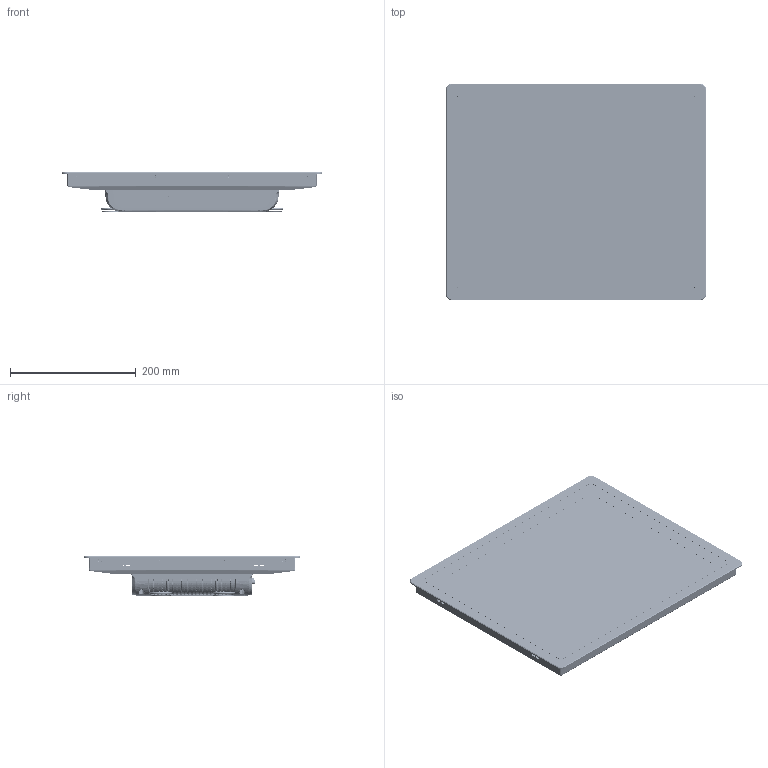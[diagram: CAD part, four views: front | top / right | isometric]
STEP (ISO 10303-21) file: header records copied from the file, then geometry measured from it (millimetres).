
FILE_DESCRIPTION((''),'2;1');
FILE_NAME('0-17INCH_2_GENERATIONS_ASM','2020-07-08T',('Administrator'),(''),'CREO PARAMETRIC BY PTC INC, 2015290','CREO PARAMETRIC BY PTC INC, 2015290','');
FILE_SCHEMA(('CONFIG_CONTROL_DESIGN'));
Products named in the file (1): 0-17INCH_2_GENERATIONS_ASM
Bounding box: 414 x 345 x 63.21 mm (x, y, z)
Surface area: 1232152.4 mm2 (no closed solid volume)
Topology: 0 solids, 0 shells, 4033 faces, 20868 edges, 20640 vertices
Faces by surface type: bspline 3827, torus 196, sphere 10
Entity records: 329022 total; most frequent: CARTESIAN_POINT 142931, DIRECTION 29214, TRIMMED_CURVE 25887, VECTOR 22972, LINE 22972, DEFINITIONAL_REPRESENTATION 20444, PCURVE 20444, COMPOSITE_CURVE_SEGMENT 20444
